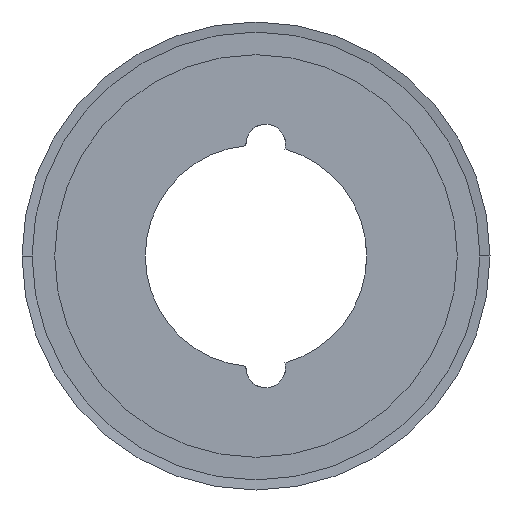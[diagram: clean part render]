
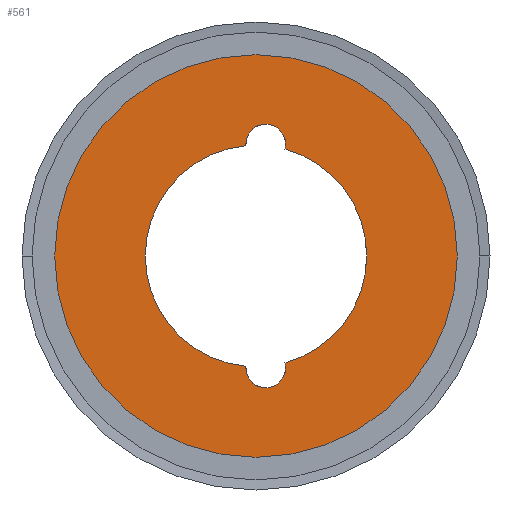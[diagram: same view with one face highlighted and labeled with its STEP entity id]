
A CAD part, left-side view. The second image highlights one B-rep face of the part: STEP entity #561.
In plain terms, the highlighted planar face has unit normal (-1, 0, 0).
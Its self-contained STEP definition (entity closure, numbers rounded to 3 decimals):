
#561 = ADVANCED_FACE( '', ( #1541, #1542 ), #1543, .T. );
#1541 = FACE_BOUND( '', #2522, .T. );
#1542 = FACE_OUTER_BOUND( '', #2523, .T. );
#1543 = PLANE( '', #2524 );
#2522 = EDGE_LOOP( '', ( #6831, #6832, #6833, #6834, #6835, #6836, #6837, #6838, #6839, #6840 ) );
#2523 = EDGE_LOOP( '', ( #6841, #6842 ) );
#2524 = AXIS2_PLACEMENT_3D( '', #6843, #6844, #6845 );
#6831 = ORIENTED_EDGE( '', *, *, #6907, .T. );
#6832 = ORIENTED_EDGE( '', *, *, #6910, .T. );
#6833 = ORIENTED_EDGE( '', *, *, #6909, .T. );
#6834 = ORIENTED_EDGE( '', *, *, #6902, .F. );
#6835 = ORIENTED_EDGE( '', *, *, #6914, .F. );
#6836 = ORIENTED_EDGE( '', *, *, #6917, .T. );
#6837 = ORIENTED_EDGE( '', *, *, #6893, .T. );
#6838 = ORIENTED_EDGE( '', *, *, #6888, .T. );
#6839 = ORIENTED_EDGE( '', *, *, #6915, .F. );
#6840 = ORIENTED_EDGE( '', *, *, #6900, .F. );
#6841 = ORIENTED_EDGE( '', *, *, #6849, .T. );
#6842 = ORIENTED_EDGE( '', *, *, #8275, .T. );
#6843 = CARTESIAN_POINT( '', ( 0., 31.001, 0. ) );
#6844 = DIRECTION( '', ( -1., 0., 0. ) );
#6845 = DIRECTION( '', ( 0., 1., 0. ) );
#6849 = EDGE_CURVE( '', #8277, #8281, #8283, .T. );
#6888 = EDGE_CURVE( '', #8349, #8352, #8354, .T. );
#6893 = EDGE_CURVE( '', #8356, #8349, #8363, .T. );
#6900 = EDGE_CURVE( '', #8374, #8364, #8376, .T. );
#6902 = EDGE_CURVE( '', #8377, #8380, #8381, .T. );
#6907 = EDGE_CURVE( '', #8374, #8387, #8389, .T. );
#6909 = EDGE_CURVE( '', #8390, #8380, #8392, .T. );
#6910 = EDGE_CURVE( '', #8387, #8390, #8393, .T. );
#6914 = EDGE_CURVE( '', #8396, #8377, #8398, .T. );
#6915 = EDGE_CURVE( '', #8364, #8352, #8399, .T. );
#6917 = EDGE_CURVE( '', #8396, #8356, #8401, .T. );
#8275 = EDGE_CURVE( '', #8281, #8277, #10655, .T. );
#8277 = VERTEX_POINT( '', #10657 );
#8281 = VERTEX_POINT( '', #10662 );
#8283 = CIRCLE( '', #10665, 40. );
#8349 = VERTEX_POINT( '', #10783 );
#8352 = VERTEX_POINT( '', #10787 );
#8354 = CIRCLE( '', #10796, 3.95 );
#8356 = VERTEX_POINT( '', #10798 );
#8363 = CIRCLE( '', #10820, 3.95 );
#8364 = VERTEX_POINT( '', #10821 );
#8374 = VERTEX_POINT( '', #10873 );
#8376 = CIRCLE( '', #10882, 22.002 );
#8377 = VERTEX_POINT( '', #10883 );
#8380 = VERTEX_POINT( '', #10887 );
#8381 = CIRCLE( '', #10888, 22.002 );
#8387 = VERTEX_POINT( '', #10908 );
#8389 = CIRCLE( '', #10911, 3.95 );
#8390 = VERTEX_POINT( '', #10912 );
#8392 = CIRCLE( '', #10915, 3.95 );
#8393 = CIRCLE( '', #10916, 3.95 );
#8396 = VERTEX_POINT( '', #10919 );
#8398 = CIRCLE( '', #10928, 22.002 );
#8399 = CIRCLE( '', #10929, 22.002 );
#8401 = CIRCLE( '', #10931, 3.95 );
#10655 = CIRCLE( '', #13969, 40. );
#10657 = CARTESIAN_POINT( '', ( 0., 40., 0. ) );
#10662 = CARTESIAN_POINT( '', ( 0., -40., 0. ) );
#10665 = AXIS2_PLACEMENT_3D( '', #13975, #13976, #13977 );
#10783 = CARTESIAN_POINT( '', ( 0., 2.013, -22.22 ) );
#10787 = CARTESIAN_POINT( '', ( 0., 2.001, -21.911 ) );
#10796 = AXIS2_PLACEMENT_3D( '', #14045, #14046, #14047 );
#10798 = CARTESIAN_POINT( '', ( 0., -5.887, -22.22 ) );
#10820 = AXIS2_PLACEMENT_3D( '', #14052, #14053, #14054 );
#10821 = CARTESIAN_POINT( '', ( 0., 22.002, 0. ) );
#10873 = CARTESIAN_POINT( '', ( 0., 2.001, 21.911 ) );
#10882 = AXIS2_PLACEMENT_3D( '', #14059, #14060, #14061 );
#10883 = CARTESIAN_POINT( '', ( 0., -22.002, 0. ) );
#10887 = CARTESIAN_POINT( '', ( 0., -5.762, 21.234 ) );
#10888 = AXIS2_PLACEMENT_3D( '', #14063, #14064, #14065 );
#10908 = CARTESIAN_POINT( '', ( 0., 2.013, 22.22 ) );
#10911 = AXIS2_PLACEMENT_3D( '', #14070, #14071, #14072 );
#10912 = CARTESIAN_POINT( '', ( 0., -5.887, 22.22 ) );
#10915 = AXIS2_PLACEMENT_3D( '', #14074, #14075, #14076 );
#10916 = AXIS2_PLACEMENT_3D( '', #14077, #14078, #14079 );
#10919 = CARTESIAN_POINT( '', ( 0., -5.762, -21.234 ) );
#10928 = AXIS2_PLACEMENT_3D( '', #14086, #14087, #14088 );
#10929 = AXIS2_PLACEMENT_3D( '', #14089, #14090, #14091 );
#10931 = AXIS2_PLACEMENT_3D( '', #14095, #14096, #14097 );
#13969 = AXIS2_PLACEMENT_3D( '', #16601, #16602, #16603 );
#13975 = CARTESIAN_POINT( '', ( 0., 0., 0. ) );
#13976 = DIRECTION( '', ( -1., 0., 0. ) );
#13977 = DIRECTION( '', ( 0., 1., 0. ) );
#14045 = CARTESIAN_POINT( '', ( 0., -1.937, -22.22 ) );
#14046 = DIRECTION( '', ( 1., 0., 0. ) );
#14047 = DIRECTION( '', ( 0., -1., 0. ) );
#14052 = CARTESIAN_POINT( '', ( 0., -1.937, -22.22 ) );
#14053 = DIRECTION( '', ( 1., 0., 0. ) );
#14054 = DIRECTION( '', ( 0., -1., 0. ) );
#14059 = CARTESIAN_POINT( '', ( 0., 0., 0. ) );
#14060 = DIRECTION( '', ( -1., 0., 0. ) );
#14061 = DIRECTION( '', ( 0., 1., 0. ) );
#14063 = CARTESIAN_POINT( '', ( 0., 0., 0. ) );
#14064 = DIRECTION( '', ( -1., 0., 0. ) );
#14065 = DIRECTION( '', ( 0., 1., 0. ) );
#14070 = CARTESIAN_POINT( '', ( 0., -1.937, 22.22 ) );
#14071 = DIRECTION( '', ( 1., 0., 0. ) );
#14072 = DIRECTION( '', ( 0., -1., 0. ) );
#14074 = CARTESIAN_POINT( '', ( 0., -1.937, 22.22 ) );
#14075 = DIRECTION( '', ( 1., 0., 0. ) );
#14076 = DIRECTION( '', ( 0., -1., 0. ) );
#14077 = CARTESIAN_POINT( '', ( 0., -1.937, 22.22 ) );
#14078 = DIRECTION( '', ( 1., 0., 0. ) );
#14079 = DIRECTION( '', ( 0., -1., 0. ) );
#14086 = CARTESIAN_POINT( '', ( 0., 0., 0. ) );
#14087 = DIRECTION( '', ( -1., 0., 0. ) );
#14088 = DIRECTION( '', ( 0., 1., 0. ) );
#14089 = CARTESIAN_POINT( '', ( 0., 0., 0. ) );
#14090 = DIRECTION( '', ( -1., 0., 0. ) );
#14091 = DIRECTION( '', ( 0., 1., 0. ) );
#14095 = CARTESIAN_POINT( '', ( 0., -1.937, -22.22 ) );
#14096 = DIRECTION( '', ( 1., 0., 0. ) );
#14097 = DIRECTION( '', ( 0., -1., 0. ) );
#16601 = CARTESIAN_POINT( '', ( 0., 0., 0. ) );
#16602 = DIRECTION( '', ( -1., 0., 0. ) );
#16603 = DIRECTION( '', ( 0., 1., 0. ) );
